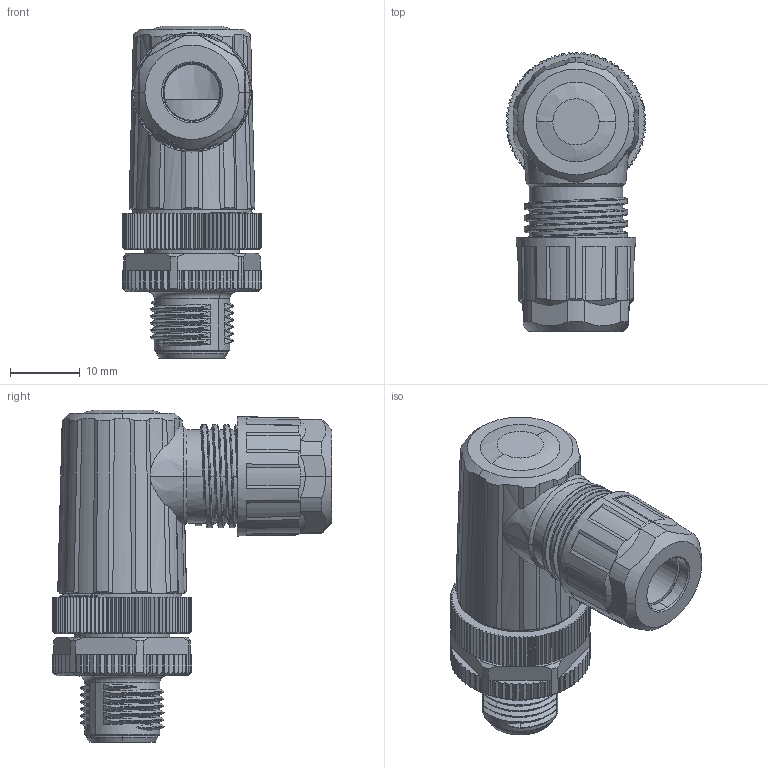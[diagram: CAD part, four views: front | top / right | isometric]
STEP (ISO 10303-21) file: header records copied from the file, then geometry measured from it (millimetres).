
FILE_DESCRIPTION(/* description */ (''),/* implementation_level */ '2;1');
FILE_NAME(/* name */ '64F321.stp',/* time_stamp */ '2024-02-04T16:42:20+08:00',/* author */ (''),/* organization */ (''),/* preprocessor_version */ 'ST-DEVELOPER v16.7',/* originating_system */ 'SIEMENS PLM Software NX 12.0',/* authorisation */ '');
FILE_SCHEMA (('AUTOMOTIVE_DESIGN { 1 0 10303 214 3 1 1 1 }'));
Length unit declared in the file: millimetre
Products named in the file (1): 64F321 64F341 组装图_stp
Bounding box: 20 x 40 x 47.55 mm (x, y, z)
Volume: 11414.7 mm3; surface area: 8214.4 mm2
Topology: 1 solids, 5 shells, 1124 faces, 3045 edges, 1981 vertices
Faces by surface type: plane 495, cylinder 286, cone 257, bspline 72, torus 14
Full cylindrical faces by diameter (mm): 14.94 x1, 17 x1
Entity records: 46215 total; most frequent: CARTESIAN_POINT 19024, ORIENTED_EDGE 6084, DIRECTION 5155, EDGE_CURVE 3042, VERTEX_POINT 1980, AXIS2_PLACEMENT_3D 1882, LINE 1391, VECTOR 1391
